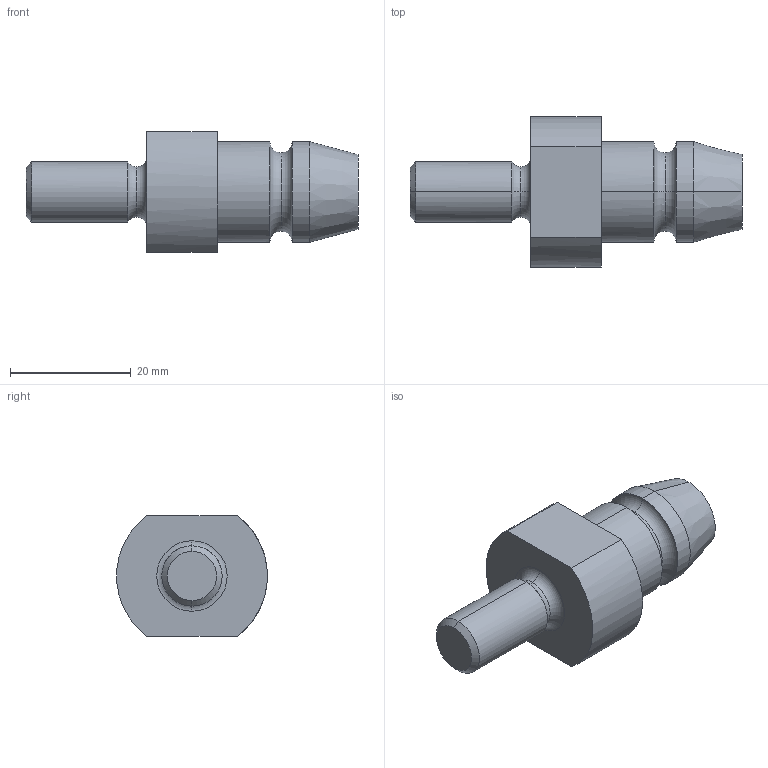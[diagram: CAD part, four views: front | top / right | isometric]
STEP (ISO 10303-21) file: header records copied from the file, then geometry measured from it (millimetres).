
FILE_DESCRIPTION(('CATIA V5 STEP Exchange'),'2;1');
FILE_NAME('C:\Users\Utente\Desktop\IO LAVORO\3D X SITO CF\X SITO\PLASTICA\AGS\AGS3401M10.stp','2021-02-21T19:20:25+00:00',('none'),('none'),'CATIA Version 5 Release 20 GA (IN-10)','CATIA V5 STEP AP203','none');
FILE_SCHEMA(('CONFIG_CONTROL_DESIGN'));
Length unit declared in the file: millimetre
Products named in the file (1): AGS3401M10
Bounding box: 55 x 24.93 x 20 mm (x, y, z)
Volume: 11070.6 mm3; surface area: 3532.3 mm2
Topology: 1 solids, 1 shells, 26 faces, 70 edges, 48 vertices
Faces by surface type: cylinder 8, torus 8, plane 6, cone 4
Entity records: 920 total; most frequent: CARTESIAN_POINT 235, ORIENTED_EDGE 140, DIRECTION 113, AXIS2_PLACEMENT_3D 70, EDGE_CURVE 70, VERTEX_POINT 48, CIRCLE 43, EDGE_LOOP 28
